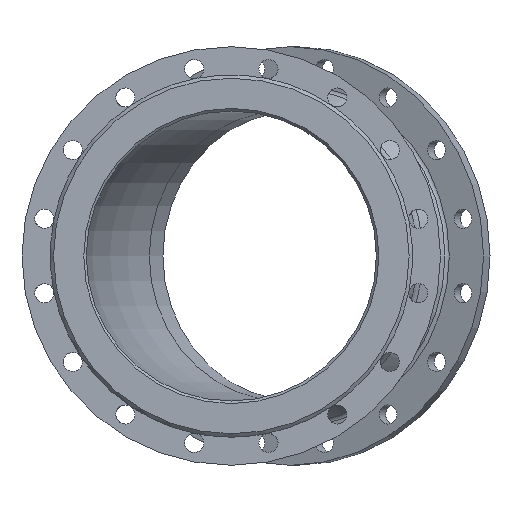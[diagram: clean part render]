
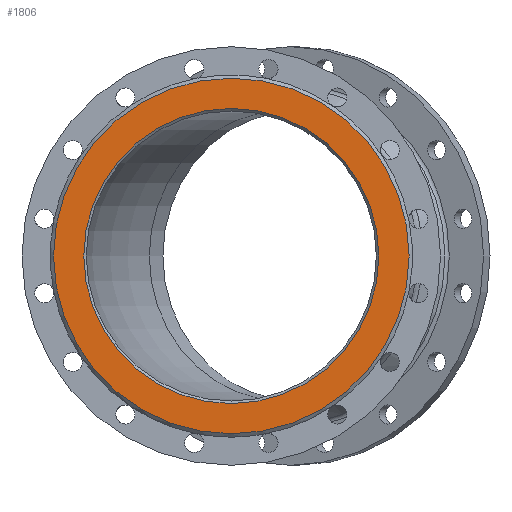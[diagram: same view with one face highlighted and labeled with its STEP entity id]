
A CAD part, left-side view. The second image highlights one B-rep face of the part: STEP entity #1806.
In plain terms, the highlighted planar face has unit normal (-1, 0, 0).
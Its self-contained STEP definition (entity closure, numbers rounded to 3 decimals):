
#2 = VERTEX_POINT ( 'NONE', #2340 ) ;
#630 = DIRECTION ( 'NONE',  ( 0., 0., -1. ) ) ;
#634 = EDGE_CURVE ( 'NONE', #2, #2, #3672, .T. ) ;
#929 = AXIS2_PLACEMENT_3D ( 'NONE', #4978, #2202, #630 ) ;
#951 = DIRECTION ( 'NONE',  ( 0., -1., 0. ) ) ;
#1097 = ORIENTED_EDGE ( 'NONE', *, *, #634, .T. ) ;
#1315 = DIRECTION ( 'NONE',  ( 0., -1., 0. ) ) ;
#1640 = FACE_OUTER_BOUND ( 'NONE', #3029, .T. ) ;
#1806 = ADVANCED_FACE ( 'NONE', ( #3607, #1640 ), #2838, .T. ) ;
#2142 = EDGE_LOOP ( 'NONE', ( #1097 ) ) ;
#2202 = DIRECTION ( 'NONE',  ( 1., 0., 0. ) ) ;
#2340 = CARTESIAN_POINT ( 'NONE',  ( -210., -178., 0. ) ) ;
#2659 = CIRCLE ( 'NONE', #929, 214.5 ) ;
#2671 = EDGE_CURVE ( 'NONE', #3521, #3521, #2659, .T. ) ;
#2775 = CARTESIAN_POINT ( 'NONE',  ( -210., 0., -214.5 ) ) ;
#2776 = AXIS2_PLACEMENT_3D ( 'NONE', #4892, #4844, #951 ) ;
#2838 = PLANE ( 'NONE',  #2776 ) ;
#3029 = EDGE_LOOP ( 'NONE', ( #3488 ) ) ;
#3179 = CARTESIAN_POINT ( 'NONE',  ( -210., 0., 0. ) ) ;
#3488 = ORIENTED_EDGE ( 'NONE', *, *, #2671, .F. ) ;
#3521 = VERTEX_POINT ( 'NONE', #2775 ) ;
#3607 = FACE_BOUND ( 'NONE', #2142, .T. ) ;
#3672 = CIRCLE ( 'NONE', #4661, 178. ) ;
#3894 = DIRECTION ( 'NONE',  ( 1., 0., 0. ) ) ;
#4661 = AXIS2_PLACEMENT_3D ( 'NONE', #3179, #3894, #1315 ) ;
#4844 = DIRECTION ( 'NONE',  ( -1., 0., 0. ) ) ;
#4892 = CARTESIAN_POINT ( 'NONE',  ( -210., 0., 0. ) ) ;
#4978 = CARTESIAN_POINT ( 'NONE',  ( -210., 0., 0. ) ) ;
